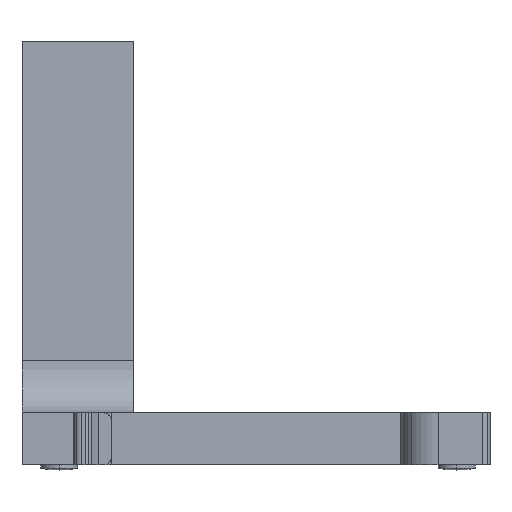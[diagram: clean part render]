
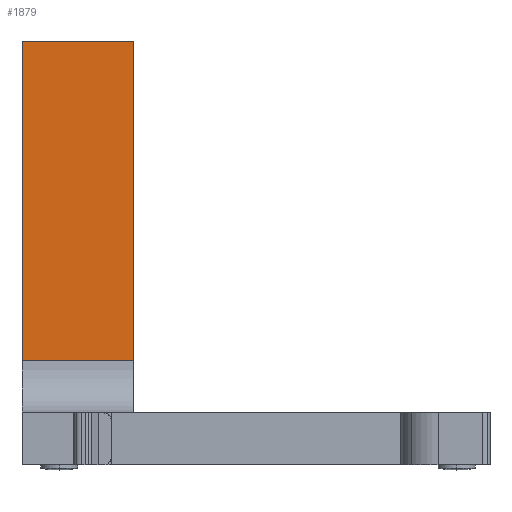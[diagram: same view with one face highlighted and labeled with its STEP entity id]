
A CAD part, left-side view. The second image highlights one B-rep face of the part: STEP entity #1879.
In plain terms, the highlighted planar face has unit normal (-1, 0, 0).
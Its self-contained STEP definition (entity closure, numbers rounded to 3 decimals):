
#177=DIRECTION('',(0.,0.,-1.));
#178=VECTOR('',#177,8.6);
#179=CARTESIAN_POINT('',(0.,-3.,11.4));
#180=LINE('',#179,#178);
#198=DIRECTION('',(0.,1.,0.));
#199=VECTOR('',#198,3.);
#200=CARTESIAN_POINT('',(0.,-3.,2.8));
#201=LINE('',#200,#199);
#219=DIRECTION('',(0.,0.,1.));
#220=VECTOR('',#219,8.6);
#221=CARTESIAN_POINT('',(0.,0.,2.8));
#222=LINE('',#221,#220);
#369=DIRECTION('',(0.,-1.,0.));
#370=VECTOR('',#369,3.);
#371=CARTESIAN_POINT('',(0.,0.,11.4));
#372=LINE('',#371,#370);
#1616=CARTESIAN_POINT('',(0.,-3.,2.8));
#1617=CARTESIAN_POINT('',(0.,0.,2.8));
#1618=VERTEX_POINT('',#1616);
#1619=VERTEX_POINT('',#1617);
#1628=CARTESIAN_POINT('',(0.,-3.,11.4));
#1629=VERTEX_POINT('',#1628);
#1630=CARTESIAN_POINT('',(0.,0.,11.4));
#1631=VERTEX_POINT('',#1630);
#1866=CARTESIAN_POINT('',(0.,-1.5,6.4));
#1867=DIRECTION('',(1.,0.,0.));
#1868=DIRECTION('',(0.,0.,-1.));
#1869=AXIS2_PLACEMENT_3D('',#1866,#1867,#1868);
#1870=PLANE('',#1869);
#1871=ORIENTED_EDGE('',*,*,#1856,.T.);
#1873=ORIENTED_EDGE('',*,*,#1872,.T.);
#1875=ORIENTED_EDGE('',*,*,#1874,.T.);
#1876=ORIENTED_EDGE('',*,*,#1837,.T.);
#1877=EDGE_LOOP('',(#1871,#1873,#1875,#1876));
#1878=FACE_OUTER_BOUND('',#1877,.F.);
#1879=ADVANCED_FACE('',(#1878),#1870,.F.);
#1837=EDGE_CURVE('',#1629,#1618,#180,.T.);
#1856=EDGE_CURVE('',#1618,#1619,#201,.T.);
#1872=EDGE_CURVE('',#1619,#1631,#222,.T.);
#1874=EDGE_CURVE('',#1631,#1629,#372,.T.);
